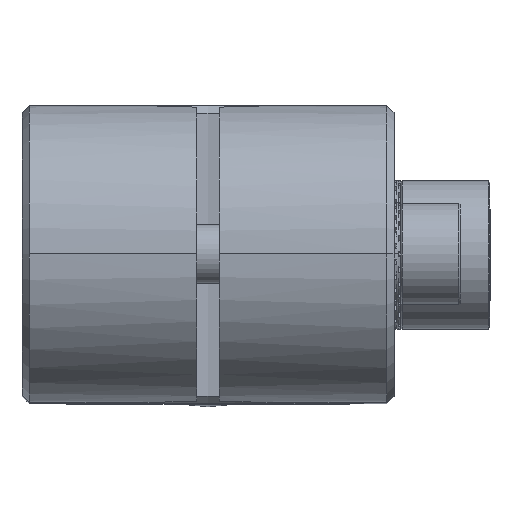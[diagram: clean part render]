
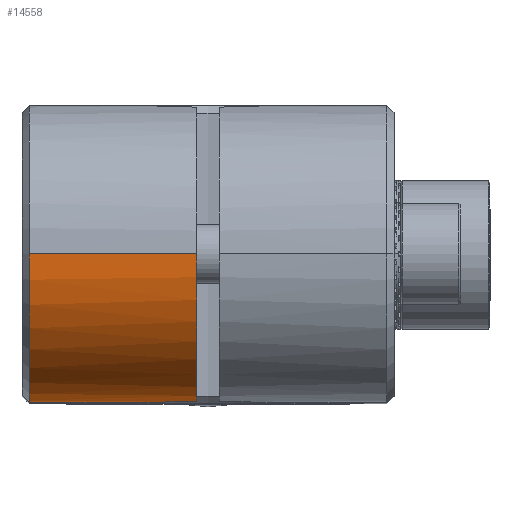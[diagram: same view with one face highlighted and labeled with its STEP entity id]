
A CAD part, top view. The second image highlights one B-rep face of the part: STEP entity #14558.
In plain terms, the highlighted cylindrical face has radius 10 mm (diameter 20 mm), a partial arc.
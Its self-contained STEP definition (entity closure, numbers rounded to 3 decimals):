
#693 = ORIENTED_EDGE ( 'NONE', *, *, #9404, .F. ) ;
#735 = EDGE_CURVE ( 'NONE', #12276, #11640, #13380, .T. ) ;
#872 = VECTOR ( 'NONE', #12300, 1000. ) ;
#899 = CIRCLE ( 'NONE', #13901, 10. ) ;
#979 = CARTESIAN_POINT ( 'NONE',  ( -0.408, -9.992, 7.864 ) ) ;
#1017 = CYLINDRICAL_SURFACE ( 'NONE', #3379, 10. ) ;
#1648 = EDGE_CURVE ( 'NONE', #7535, #8490, #10988, .T. ) ;
#2493 = VERTEX_POINT ( 'NONE', #15606 ) ;
#2748 = CARTESIAN_POINT ( 'NONE',  ( -10., 0., 11.75 ) ) ;
#3011 = CARTESIAN_POINT ( 'NONE',  ( 0., 0., 11.75 ) ) ;
#3044 = CIRCLE ( 'NONE', #4063, 10. ) ;
#3246 = DIRECTION ( 'NONE',  ( 0., 0., 1. ) ) ;
#3337 = CARTESIAN_POINT ( 'NONE',  ( -0.973, -9.953, 9.169 ) ) ;
#3379 = AXIS2_PLACEMENT_3D ( 'NONE', #15944, #9731, #13162 ) ;
#4063 = AXIS2_PLACEMENT_3D ( 'NONE', #10641, #3246, #15361 ) ;
#4379 = DIRECTION ( 'NONE',  ( -1., 0., 0. ) ) ;
#4530 = ORIENTED_EDGE ( 'NONE', *, *, #1648, .T. ) ;
#4564 = CARTESIAN_POINT ( 'NONE',  ( 0., -10., 7.152 ) ) ;
#5049 = EDGE_CURVE ( 'NONE', #8490, #2493, #3044, .T. ) ;
#5361 = LINE ( 'NONE', #8041, #13297 ) ;
#5786 = CARTESIAN_POINT ( 'NONE',  ( -0.755, -9.972, 8.603 ) ) ;
#5943 = CARTESIAN_POINT ( 'NONE',  ( -0.904, -9.959, 8.98 ) ) ;
#6923 = CARTESIAN_POINT ( 'NONE',  ( -0.212, -9.998, 7.504 ) ) ;
#7535 = VERTEX_POINT ( 'NONE', #2748 ) ;
#7706 = ORIENTED_EDGE ( 'NONE', *, *, #5049, .T. ) ;
#8041 = CARTESIAN_POINT ( 'NONE',  ( 0., -10., 25. ) ) ;
#8293 = CARTESIAN_POINT ( 'NONE',  ( -1.293, -9.919, 10.141 ) ) ;
#8490 = VERTEX_POINT ( 'NONE', #13375 ) ;
#8923 = CARTESIAN_POINT ( 'NONE',  ( 0., -10., 7.152 ) ) ;
#9404 = EDGE_CURVE ( 'NONE', #12276, #2493, #5361, .T. ) ;
#9522 = CARTESIAN_POINT ( 'NONE',  ( -0.674, -9.978, 8.417 ) ) ;
#9680 = CARTESIAN_POINT ( 'NONE',  ( -1.513, -9.885, 11.75 ) ) ;
#9731 = DIRECTION ( 'NONE',  ( 0., 0., -1. ) ) ;
#9808 = FACE_OUTER_BOUND ( 'NONE', #14446, .T. ) ;
#10479 = ORIENTED_EDGE ( 'NONE', *, *, #735, .T. ) ;
#10641 = CARTESIAN_POINT ( 'NONE',  ( 0., 0., 0.5 ) ) ;
#10664 = CARTESIAN_POINT ( 'NONE',  ( -1.513, -9.885, 11.75 ) ) ;
#10906 = EDGE_CURVE ( 'NONE', #11640, #7535, #899, .T. ) ;
#10988 = LINE ( 'NONE', #14908, #872 ) ;
#11640 = VERTEX_POINT ( 'NONE', #10664 ) ;
#11898 = CARTESIAN_POINT ( 'NONE',  ( -0.109, -10., 7.326 ) ) ;
#12063 = CARTESIAN_POINT ( 'NONE',  ( -0.501, -9.988, 8.048 ) ) ;
#12276 = VERTEX_POINT ( 'NONE', #8923 ) ;
#12300 = DIRECTION ( 'NONE',  ( 0., 0., -1. ) ) ;
#13162 = DIRECTION ( 'NONE',  ( -1., 0., 0. ) ) ;
#13297 = VECTOR ( 'NONE', #15551, 1000. ) ;
#13375 = CARTESIAN_POINT ( 'NONE',  ( -10., 0., 0.5 ) ) ;
#13380 = B_SPLINE_CURVE_WITH_KNOTS ( 'NONE', 3,
 ( #4564, #11898, #6923, #979, #12063, #9522, #5786, #5943, #3337, #8293, #15892, #9680 ),
 .UNSPECIFIED., .F., .F.,
 ( 4, 2, 2, 2, 2, 4 ),
 ( 0., 0.125, 0.25, 0.375, 0.5, 1. ),
 .UNSPECIFIED. ) ;
#13901 = AXIS2_PLACEMENT_3D ( 'NONE', #3011, #15474, #4379 ) ;
#14446 = EDGE_LOOP ( 'NONE', ( #15956, #4530, #7706, #693, #10479 ) ) ;
#14558 = ADVANCED_FACE ( 'NONE', ( #9808 ), #1017, .T. ) ;
#14908 = CARTESIAN_POINT ( 'NONE',  ( -10., 0., 25. ) ) ;
#15361 = DIRECTION ( 'NONE',  ( 1., 0., 0. ) ) ;
#15474 = DIRECTION ( 'NONE',  ( 0., 0., -1. ) ) ;
#15551 = DIRECTION ( 'NONE',  ( 0., 0., -1. ) ) ;
#15606 = CARTESIAN_POINT ( 'NONE',  ( 0., -10., 0.5 ) ) ;
#15892 = CARTESIAN_POINT ( 'NONE',  ( -1.452, -9.894, 10.941 ) ) ;
#15944 = CARTESIAN_POINT ( 'NONE',  ( 0., 0., 25. ) ) ;
#15956 = ORIENTED_EDGE ( 'NONE', *, *, #10906, .T. ) ;
